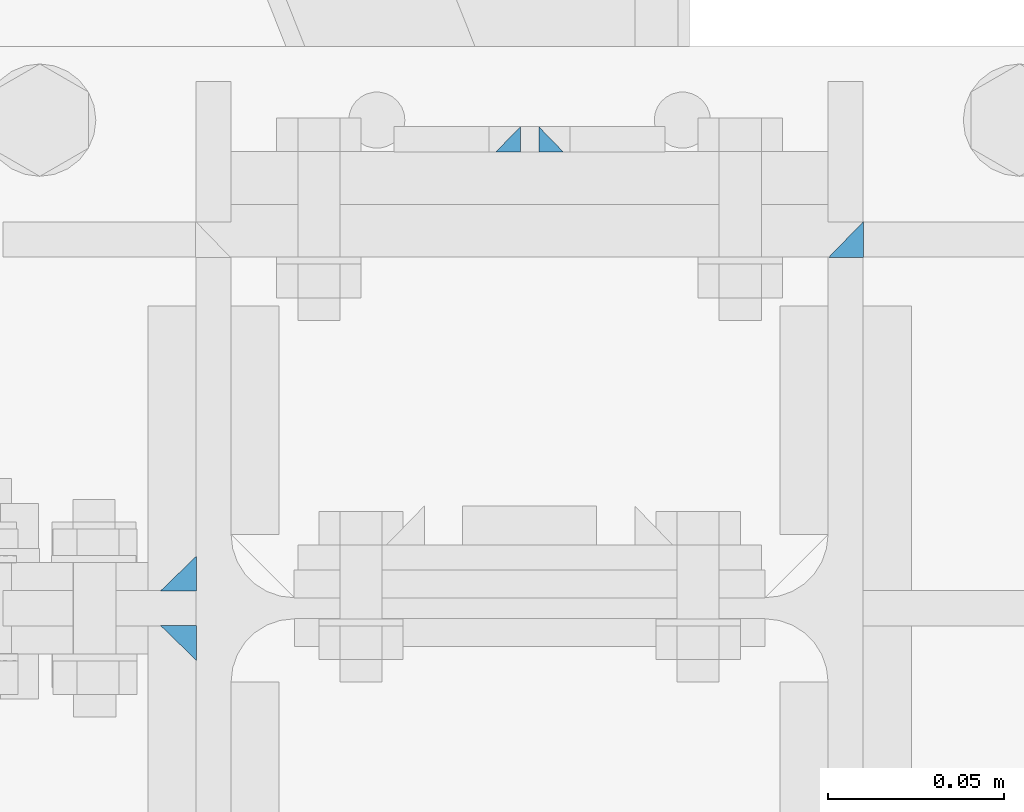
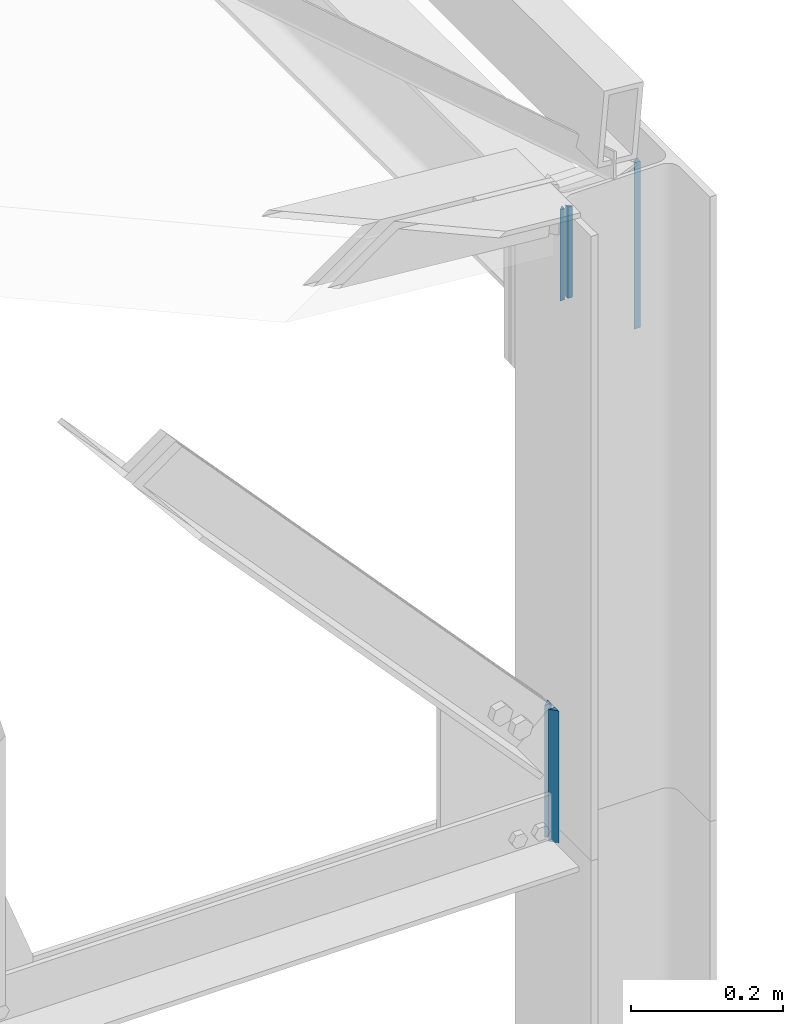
# One storey, part 27 of 251: 7 fasteners.
"""IFC4 building model written with IfcOpenShell, lengths in metres."""

from ifc_helpers import new_model, si_unit, frame, origin_with_axes, place, context, project, spatial, polyline, outline, extrude, type_object, element, save


model = new_model("IFC4")

# Units and contexts
model_context = context("Model", 3, precision=1e-05, world=origin_with_axes())
ifc_project = project(units=[si_unit("LENGTHUNIT", "METRE"), si_unit("AREAUNIT", "SQUARE_METRE"), si_unit("VOLUMEUNIT", "CUBIC_METRE"), si_unit("MASSUNIT", "GRAM", prefix="KILO"), si_unit("TIMEUNIT", "SECOND"), si_unit("PLANEANGLEUNIT", "RADIAN"), si_unit("SOLIDANGLEUNIT", "STERADIAN"), si_unit("THERMODYNAMICTEMPERATUREUNIT", "DEGREE_CELSIUS")], contexts=[model_context])

# Site, building, storey
placement_1 = place(None, origin_with_axes())
site = spatial("IfcSite", under=ifc_project, at=placement_1, Name="Italia", CompositionType="ELEMENT")
building = spatial("IfcBuilding", under=site, at=placement_1, Name="Deposito", CompositionType="ELEMENT")
storey = spatial("IfcBuildingStorey", under=building, at=placement_1, Name="Storey 0", CompositionType="ELEMENT", Elevation=0.0)

# Fasteners
fastener_type_1 = type_object("IfcFastenerType", Name="Collegamenti -064_-065 -065_-064 -065_-066 -066_-065 -066_-067 -067_-066 -067_-068 -068_-067", PredefinedType="WELD")
placement_2 = place(placement_1, origin_with_axes())
fastener_1_placement = place(placement_2, origin_with_axes())
element("IfcFastener", 1, at=fastener_1_placement, inside=storey, type_object=fastener_type_1, Name="Collegamenti -064_-065 -065_-064 -065_-066 -066_-065 -066_-067 -067_-066 -067_-068 -068_-067", context=model_context, shape_type="SweptSolid", body=[
    extrude(outline(polyline([(0.0, 0.0), (0.00717336, -0.00695801), (0.0, -0.00695801), (0.0, 0.0)])), frame((19.9904, 0.12995, 5.72695), z_axis=(0.0, 0.0, 1.0), x_axis=(0.0, 1.0, 0.0)), (0.0, 0.0, 1.0), 0.146099),
])
fastener_type_2 = type_object("IfcFastenerType", Name="Collegamenti -064_-065 -065_-064 -065_-066 -066_-065 -066_-067 -067_-066 -067_-068 -068_-067", PredefinedType="WELD")
fastener_2_placement = place(placement_2, origin_with_axes())
element("IfcFastener", 2, at=fastener_2_placement, inside=storey, type_object=fastener_type_2, Name="Collegamenti -064_-065 -065_-064 -065_-066 -066_-065 -066_-067 -067_-066 -067_-068 -068_-067", context=model_context, shape_type="SweptSolid", body=[
    extrude(outline(polyline([(0.0, 0.0), (0.00717336, -0.00695801), (0.0, -0.00695801), (0.0, 0.0)])), frame((20.0096, 0.12995, 5.87305), z_axis=(0.0, 0.0, -1.0), x_axis=(0.0, 1.0, 0.0)), (0.0, 0.0, 1.0), 0.146099),
])
fastener_type_3 = type_object("IfcFastenerType", Name="Collegamenti -064_-065 -065_-064 -065_-066 -066_-065 -066_-067 -067_-066 -067_-068 -068_-067", PredefinedType="WELD")
fastener_3_placement = place(placement_2, origin_with_axes())
element("IfcFastener", 3, at=fastener_3_placement, inside=storey, type_object=fastener_type_3, Name="Collegamenti -064_-065 -065_-064 -065_-066 -066_-065 -066_-067 -067_-066 -067_-068 -068_-067", context=model_context, shape_type="SweptSolid", body=[
    extrude(outline(polyline([(0.0, 0.0), (0.00717336, -0.00695801), (0.0, -0.00695801), (0.0, 0.0)])), frame((19.9904, 0.12995, 5.72695), z_axis=(0.0, 0.0, 1.0), x_axis=(0.0, 1.0, 0.0)), (0.0, 0.0, 1.0), 0.146099),
])
fastener_type_4 = type_object("IfcFastenerType", Name="Collegamenti -064_-065 -065_-064 -065_-066 -066_-065 -066_-067 -067_-066 -067_-068 -068_-067", PredefinedType="WELD")
fastener_4_placement = place(placement_2, origin_with_axes())
element("IfcFastener", 4, at=fastener_4_placement, inside=storey, type_object=fastener_type_4, Name="Collegamenti -064_-065 -065_-064 -065_-066 -066_-065 -066_-067 -067_-066 -067_-068 -068_-067", context=model_context, shape_type="SweptSolid", body=[
    extrude(outline(polyline([(0.0, 0.0), (0.00717336, -0.00695801), (0.0, -0.00695801), (0.0, 0.0)])), frame((20.0096, 0.12995, 5.87305), z_axis=(0.0, 0.0, -1.0), x_axis=(0.0, 1.0, 0.0)), (0.0, 0.0, 1.0), 0.146099),
])
fastener_type_5 = type_object("IfcFastenerType", Name="Collegamenti -064_-065 -065_-064 -065_-066 -066_-065 -066_-067 -067_-066 -067_-068 -068_-067", PredefinedType="WELD")
fastener_5_placement = place(placement_2, origin_with_axes())
element("IfcFastener", 5, at=fastener_5_placement, inside=storey, type_object=fastener_type_5, Name="Collegamenti -064_-065 -065_-064 -065_-066 -066_-065 -066_-067 -067_-066 -067_-068 -068_-067", context=model_context, shape_type="SweptSolid", body=[
    extrude(outline(polyline([(0.0, 0.0), (0.0101734, -0.00986862), (0.0, -0.00986862), (0.0, 0.0)])), frame((20.0852, 0.09995, 5.66695), z_axis=(0.0, 0.0, 1.0), x_axis=(0.0, 1.0, 0.0)), (0.0, 0.0, 1.0), 0.2661),
])
fastener_type_6 = type_object("IfcFastenerType", Name="Reticolare 2", PredefinedType="WELD")
fastener_6_placement = place(placement_2, origin_with_axes())
element("IfcFastener", 6, at=fastener_6_placement, inside=storey, type_object=fastener_type_6, Name="Reticolare 2", context=model_context, shape_type="SweptSolid", body=[
    extrude(outline(polyline([(0.0, 0.0), (-0.00986816, -0.0101738), (-0.00986816, 0.0), (0.0, 0.0)])), frame((19.9051, 0.0148182, 5.18881), z_axis=(0.0, 0.0, -1.0), x_axis=(0.0, 1.0, 0.0)), (0.0, 0.0, 1.0), 0.211377),
])
fastener_type_7 = type_object("IfcFastenerType", Name="Reticolare 2", PredefinedType="WELD")
fastener_7_placement = place(placement_2, origin_with_axes())
element("IfcFastener", 7, at=fastener_7_placement, inside=storey, type_object=fastener_type_7, Name="Reticolare 2", context=model_context, shape_type="SweptSolid", body=[
    extrude(outline(polyline([(0.0, 0.0), (0.00986816, 0.0101738), (0.00986816, 0.0), (0.0, 0.0)])), frame((19.9051, -0.0148182, 4.97743), z_axis=(0.0, 0.0, 1.0), x_axis=(0.0, 1.0, 0.0)), (0.0, 0.0, 1.0), 0.211377),
])

save(model, "model.ifc")
